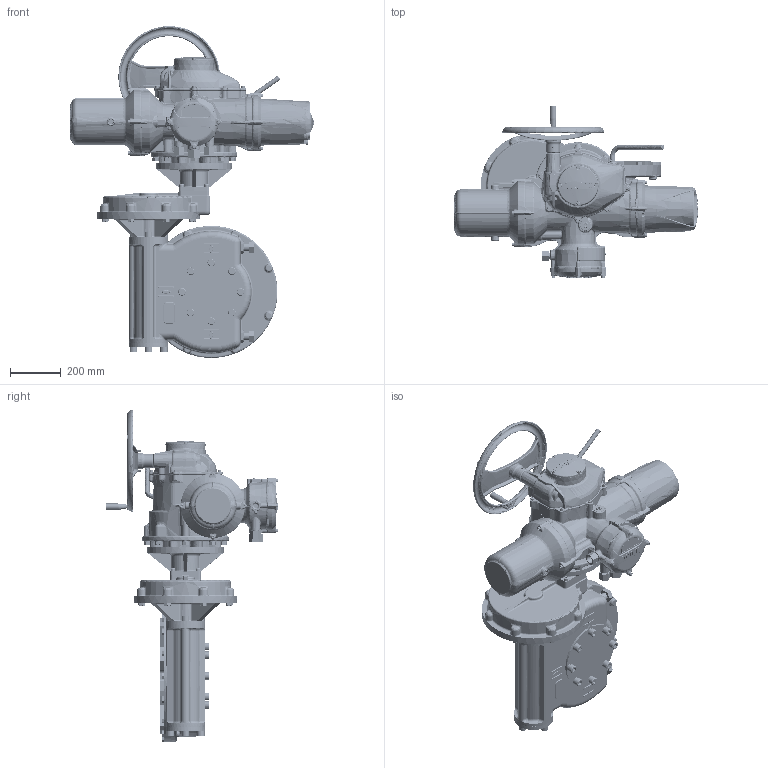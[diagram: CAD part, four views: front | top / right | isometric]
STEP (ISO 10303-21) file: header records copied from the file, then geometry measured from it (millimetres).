
FILE_DESCRIPTION( ( 'Unknown' ), '1' );
FILE_NAME( 'S:/Release/InstallationDrgs-IQmk3/Datasheets for Bishams release program/IQMK3 DATASHEETS/IQ4, IW7 - 11 & 13/II4SHWIW8RHSTD-1.stp', 'Unknown', ( 'Unknown' ), ( 'Unknown' ), 'PSStep 17.0.49', 'Unknown', ' ' );
FILE_SCHEMA( ( 'AUTOMOTIVE_DESIGN { 1 0 10303 214 1 1 1 1 }' ) );
Length unit declared in the file: millimetre
Products named in the file (10): II0-55-ADPIMP4-std
Bounding box: 958.8 x 680.05 x 1305.41 mm (x, y, z)
Volume: 1840482.8 mm3; surface area: 3267726.7 mm2
Topology: 85 solids, 87 shells, 9005 faces, 22002 edges, 12993 vertices
Faces by surface type: bspline 2935, plane 2456, cylinder 1418, torus 981, cone 778, sphere 270, extrusion 128, revolution 21, offset 18
Full cylindrical faces by diameter (mm): 1.152 x1, 3 x10, 3.5 x1, 6 x5, 6.45 x4, 6.47 x4, 6.5 x1, 6.647 x8, 7 x4, 7.6 x4, 8 x21, 8.1 x1, 8.2 x1, 8.3 x2, 8.376 x1, 8.5 x4, 9.7 x1, 10 x1, 12 x6, 12.1 x1, 13 x12, 13.25 x11, 13.548 x1, 13.55 x1, 13.835 x16, 16 x33, 16.5 x16, 16.75 x1, 17 x8, 18 x9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
Entity records: 842684 total; most frequent: CARTESIAN_POINT 588394, ORIENTED_EDGE 41234, DIRECTION 32693, EDGE_CURVE 20617, AXIS2_PLACEMENT_3D 13716, VERTEX_POINT 12612, EDGE_LOOP 9949, FACE_OUTER_BOUND 9386
